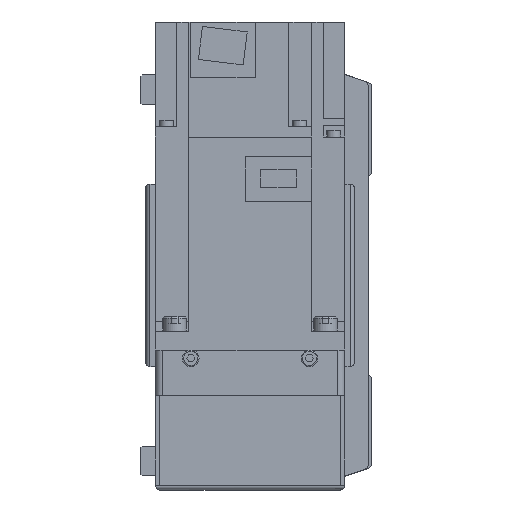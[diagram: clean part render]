
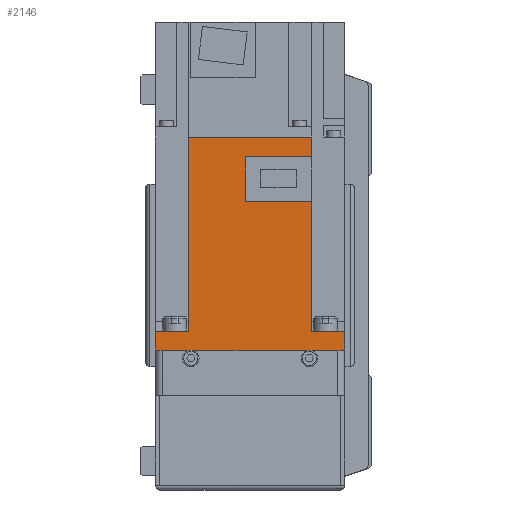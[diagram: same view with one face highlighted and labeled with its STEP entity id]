
A CAD part, left-side view. The second image highlights one B-rep face of the part: STEP entity #2146.
In plain terms, the highlighted planar face has unit normal (-1, 0, 0) as drawn and (1, 0, 0) by its records, which use the part's own axes.
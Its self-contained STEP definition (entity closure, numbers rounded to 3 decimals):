
#2146 = ADVANCED_FACE( '', ( #4773 ), #4774, .F. );
#4773 = FACE_OUTER_BOUND( '', #7895, .T. );
#4774 = PLANE( '', #7896 );
#7895 = EDGE_LOOP( '', ( #13878, #13879, #13880, #13881, #13882, #13883, #13884, #13885, #13886, #13887, #13888, #13889 ) );
#7896 = AXIS2_PLACEMENT_3D( '', #13890, #13891, #13892 );
#13878 = ORIENTED_EDGE( '', *, *, #20321, .F. );
#13879 = ORIENTED_EDGE( '', *, *, #20322, .F. );
#13880 = ORIENTED_EDGE( '', *, *, #19889, .F. );
#13881 = ORIENTED_EDGE( '', *, *, #19798, .T. );
#13882 = ORIENTED_EDGE( '', *, *, #20323, .F. );
#13883 = ORIENTED_EDGE( '', *, *, #19648, .T. );
#13884 = ORIENTED_EDGE( '', *, *, #20127, .T. );
#13885 = ORIENTED_EDGE( '', *, *, #18876, .F. );
#13886 = ORIENTED_EDGE( '', *, *, #20324, .F. );
#13887 = ORIENTED_EDGE( '', *, *, #20325, .F. );
#13888 = ORIENTED_EDGE( '', *, *, #20012, .F. );
#13889 = ORIENTED_EDGE( '', *, *, #19020, .F. );
#13890 = CARTESIAN_POINT( '', ( 40., 89.8, 40. ) );
#13891 = DIRECTION( '', ( -1., 0., 0. ) );
#13892 = DIRECTION( '', ( 0., 0., 1. ) );
#18876 = EDGE_CURVE( '', #22928, #22930, #22931, .T. );
#19020 = EDGE_CURVE( '', #23162, #23163, #23164, .T. );
#19648 = EDGE_CURVE( '', #24169, #24167, #24170, .T. );
#19798 = EDGE_CURVE( '', #24397, #24395, #24398, .T. );
#19889 = EDGE_CURVE( '', #24397, #24530, #24532, .T. );
#20012 = EDGE_CURVE( '', #23163, #24710, #24711, .T. );
#20127 = EDGE_CURVE( '', #24167, #22930, #24868, .T. );
#20321 = EDGE_CURVE( '', #25119, #23162, #25120, .T. );
#20322 = EDGE_CURVE( '', #24530, #25119, #25121, .T. );
#20323 = EDGE_CURVE( '', #24169, #24395, #25122, .T. );
#20324 = EDGE_CURVE( '', #25123, #22928, #25124, .T. );
#20325 = EDGE_CURVE( '', #24710, #25123, #25125, .T. );
#22928 = VERTEX_POINT( '', #28535 );
#22930 = VERTEX_POINT( '', #28538 );
#22931 = LINE( '', #28539, #28540 );
#23162 = VERTEX_POINT( '', #28872 );
#23163 = VERTEX_POINT( '', #28873 );
#23164 = LINE( '', #28874, #28875 );
#24167 = VERTEX_POINT( '', #30368 );
#24169 = VERTEX_POINT( '', #30371 );
#24170 = LINE( '', #30372, #30373 );
#24395 = VERTEX_POINT( '', #30731 );
#24397 = VERTEX_POINT( '', #30734 );
#24398 = LINE( '', #30735, #30736 );
#24530 = VERTEX_POINT( '', #30948 );
#24532 = LINE( '', #30951, #30952 );
#24710 = VERTEX_POINT( '', #31187 );
#24711 = LINE( '', #31188, #31189 );
#24868 = LINE( '', #31446, #31447 );
#25119 = VERTEX_POINT( '', #31799 );
#25120 = LINE( '', #31800, #31801 );
#25121 = LINE( '', #31802, #31803 );
#25122 = LINE( '', #31804, #31805 );
#25123 = VERTEX_POINT( '', #31806 );
#25124 = LINE( '', #31807, #31808 );
#25125 = LINE( '', #31809, #31810 );
#28535 = CARTESIAN_POINT( '', ( 40., 8., -40. ) );
#28538 = CARTESIAN_POINT( '', ( 40., 0., -40. ) );
#28539 = CARTESIAN_POINT( '', ( 40., 89.8, -40. ) );
#28540 = VECTOR( '', #34643, 1000. );
#28872 = CARTESIAN_POINT( '', ( 40., 81.4, 1.8 ) );
#28873 = CARTESIAN_POINT( '', ( 40., 62.8, 1.8 ) );
#28874 = CARTESIAN_POINT( '', ( 40., 81.4, 1.8 ) );
#28875 = VECTOR( '', #34820, 1000. );
#30368 = CARTESIAN_POINT( '', ( 40., 0., 40. ) );
#30371 = CARTESIAN_POINT( '', ( 40., 8., 40. ) );
#30372 = CARTESIAN_POINT( '', ( 40., 89.8, 40. ) );
#30373 = VECTOR( '', #35669, 1000. );
#30731 = CARTESIAN_POINT( '', ( 40., 8., 25.95 ) );
#30734 = CARTESIAN_POINT( '', ( 40., 89.8, 25.95 ) );
#30735 = CARTESIAN_POINT( '', ( 40., 158., 25.95 ) );
#30736 = VECTOR( '', #35818, 1000. );
#30948 = CARTESIAN_POINT( '', ( 40., 89.8, -25.95 ) );
#30951 = CARTESIAN_POINT( '', ( 40., 89.8, 40. ) );
#30952 = VECTOR( '', #35927, 1000. );
#31187 = CARTESIAN_POINT( '', ( 40., 62.8, -25.95 ) );
#31188 = CARTESIAN_POINT( '', ( 40., 62.8, 1.8 ) );
#31189 = VECTOR( '', #36081, 1000. );
#31446 = CARTESIAN_POINT( '', ( 40., 0., 40. ) );
#31447 = VECTOR( '', #36197, 1000. );
#31799 = CARTESIAN_POINT( '', ( 40., 81.4, -25.95 ) );
#31800 = CARTESIAN_POINT( '', ( 40., 81.4, -26. ) );
#31801 = VECTOR( '', #36390, 1000. );
#31802 = CARTESIAN_POINT( '', ( 40., 158., -25.95 ) );
#31803 = VECTOR( '', #36391, 1000. );
#31804 = CARTESIAN_POINT( '', ( 40., 8., 40. ) );
#31805 = VECTOR( '', #36392, 1000. );
#31806 = CARTESIAN_POINT( '', ( 40., 8., -25.95 ) );
#31807 = CARTESIAN_POINT( '', ( 40., 8., 40. ) );
#31808 = VECTOR( '', #36393, 1000. );
#31809 = CARTESIAN_POINT( '', ( 40., 158., -25.95 ) );
#31810 = VECTOR( '', #36394, 1000. );
#34643 = DIRECTION( '', ( 0., -1., 0. ) );
#34820 = DIRECTION( '', ( 0., -1., 0. ) );
#35669 = DIRECTION( '', ( 0., -1., 0. ) );
#35818 = DIRECTION( '', ( 0., -1., 0. ) );
#35927 = DIRECTION( '', ( 0., 0., -1. ) );
#36081 = DIRECTION( '', ( 0., 0., -1. ) );
#36197 = DIRECTION( '', ( 0., 0., -1. ) );
#36390 = DIRECTION( '', ( 0., 0., 1. ) );
#36391 = DIRECTION( '', ( 0., -1., 0. ) );
#36392 = DIRECTION( '', ( 0., 0., -1. ) );
#36393 = DIRECTION( '', ( 0., 0., -1. ) );
#36394 = DIRECTION( '', ( 0., -1., 0. ) );
